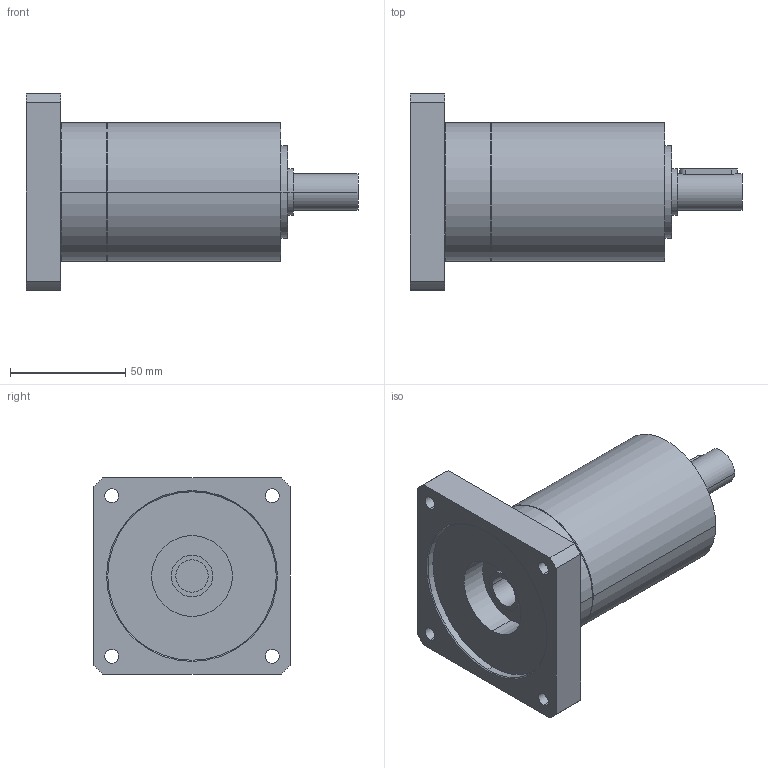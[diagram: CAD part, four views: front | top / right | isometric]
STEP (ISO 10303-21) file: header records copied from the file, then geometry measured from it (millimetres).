
FILE_DESCRIPTION(('CoCreate Modeling STEP Export'),'2;1');
FILE_NAME('GPR75_ig-9-12-16-20-24-30-36_16_B14_14_P36.stp','2014-08-25T16:03:44',(''),(''),'CoCreate Modeling STEP processor for AP214 (Solid Model)','CoCreate Modeling 16.00C 25-Feb-2009 (C) Parametric Technology GmbH','');
FILE_SCHEMA(('AUTOMOTIVE_DESIGN { 1 0 10303 214 1 1 1 1 }'));
Length unit declared in the file: millimetre
Products named in the file (2): GPR75_ig-9-12-16-20-24-30-36_16_B14_14_P36
Assembly tree (1 placements, depth 2):
  GPR75_ig-9-12-16-20-24-30-36_16_B14_14_P36
    GPR75_ig-9-12-16-20-24-30-36_16_B14_14_P36
Bounding box: 143.9 x 85 x 85 mm (x, y, z)
Volume: 356461.7 mm3; surface area: 44788.8 mm2
Topology: 1 solids, 1 shells, 72 faces, 188 edges, 130 vertices
Faces by surface type: cylinder 42, plane 22, cone 8
Entity records: 1959 total; most frequent: ORIENTED_EDGE 372, CARTESIAN_POINT 362, DIRECTION 268, EDGE_CURVE 186, VERTEX_POINT 130, AXIS2_PLACEMENT_3D 100, EDGE_LOOP 94, FACE_OUTER_BOUND 72
